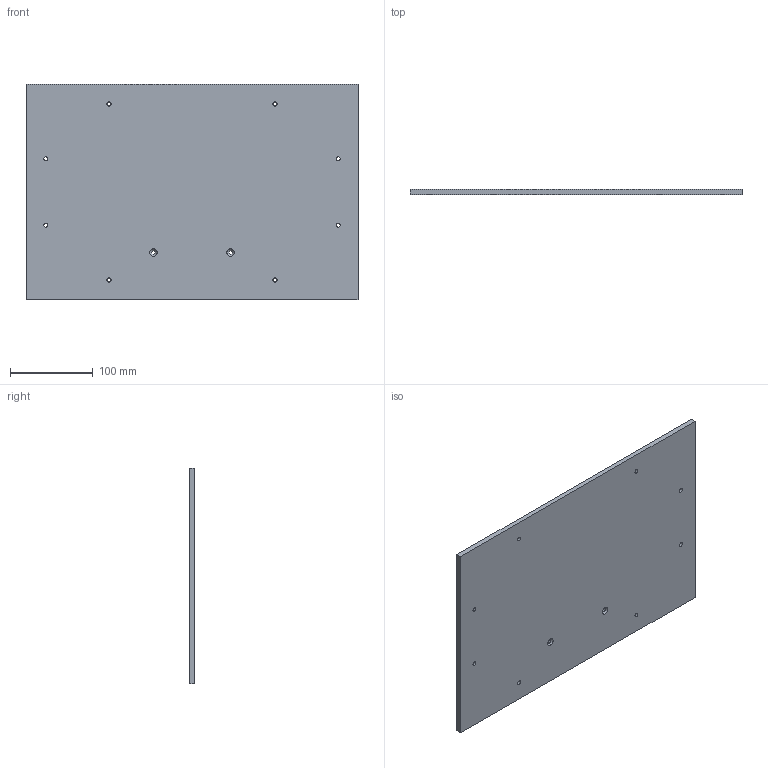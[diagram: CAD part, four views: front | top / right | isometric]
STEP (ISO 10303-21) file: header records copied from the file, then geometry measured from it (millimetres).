
FILE_DESCRIPTION (( 'STEP AP203' ), '1' );
FILE_NAME ('Base_Porte_Dessus.STEP', '2026-06-24T07:29:49', ( '' ), ( '' ), 'SwSTEP 2.0', 'SolidWorks 2024', '' );
FILE_SCHEMA (( 'CONFIG_CONTROL_DESIGN' ));
Length unit declared in the file: millimetre
Products named in the file (1): Base_Porte_Dessus_Haut
Bounding box: 400 x 6 x 260 mm (x, y, z)
Volume: 622742.3 mm3; surface area: 216443.4 mm2
Topology: 1 solids, 1 shells, 18 faces, 46 edges, 30 vertices
Faces by surface type: cylinder 10, plane 6, cone 2
Full cylindrical faces by diameter (mm): 5 x10
Entity records: 611 total; most frequent: DIRECTION 94, CARTESIAN_POINT 83, ORIENTED_EDGE 68, EDGE_LOOP 50, AXIS2_PLACEMENT_3D 41, EDGE_CURVE 34, VERTEX_POINT 30, FACE_OUTER_BOUND 28
